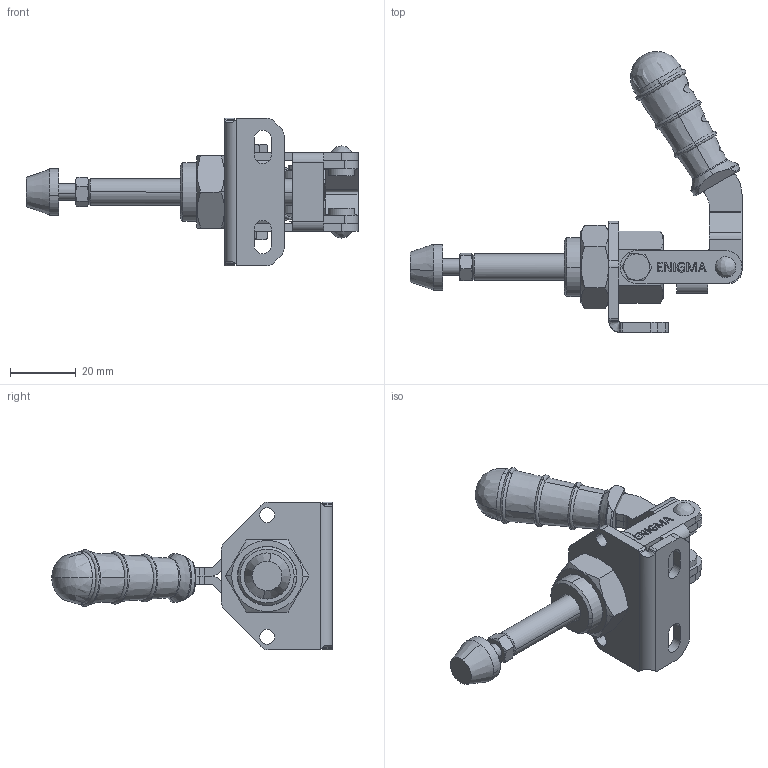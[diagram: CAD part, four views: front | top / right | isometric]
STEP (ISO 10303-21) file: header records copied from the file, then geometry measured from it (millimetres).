
FILE_DESCRIPTION (( 'STEP AP203' ), '1' );
FILE_NAME ('16008_Y.STEP', '2022-11-26T18:55:15', ( '' ), ( '' ), 'SwSTEP 2.0', 'SolidWorks 2023', '' );
FILE_SCHEMA (( 'CONFIG_CONTROL_DESIGN' ));
Length unit declared in the file: millimetre
Products named in the file (14): M5 Somun; 16008_AltıgenGövde; 16008_MAFSAL; M4x5x10_Kademeli_Civata; 16008_Ø8_Mil; 16008_Y; Aynalama16008_HAREKET_KOLU; 5x7_5_DOLU_PERÇİN; 4x17_5PERÇİN; M5_BASKI_PABUCU; C40_Tutamak; 16008_HAREKET_KOLU; M18x1_5x8_Kontra_Somun; 16008_Y_TABAN
Assembly tree (15 placements, depth 2):
  16008_Y
    16008_Y_TABAN
    16008_HAREKET_KOLU
    16008_MAFSAL
    16008_AltıgenGövde
    16008_Ø8_Mil
    M4x5x10_Kademeli_Civata  x2
    M18x1_5x8_Kontra_Somun
    Aynalama16008_HAREKET_KOLU
    5x7_5_DOLU_PERÇİN  x2
    C40_Tutamak
    M5_BASKI_PABUCU
    4x17_5PERÇİN
    M5 Somun
Bounding box: 101 x 85.46 x 45 mm (x, y, z)
Volume: 31092.9 mm3; surface area: 23295.3 mm2
Topology: 15 solids, 15 shells, 546 faces, 1381 edges, 881 vertices
Faces by surface type: plane 229, cylinder 141, bspline 98, cone 78
Entity records: 24944 total; most frequent: CARTESIAN_POINT 11309, ORIENTED_EDGE 2618, DIRECTION 2356, EDGE_CURVE 1309, VERTEX_POINT 840, AXIS2_PLACEMENT_3D 826, LINE 704, VECTOR 704
